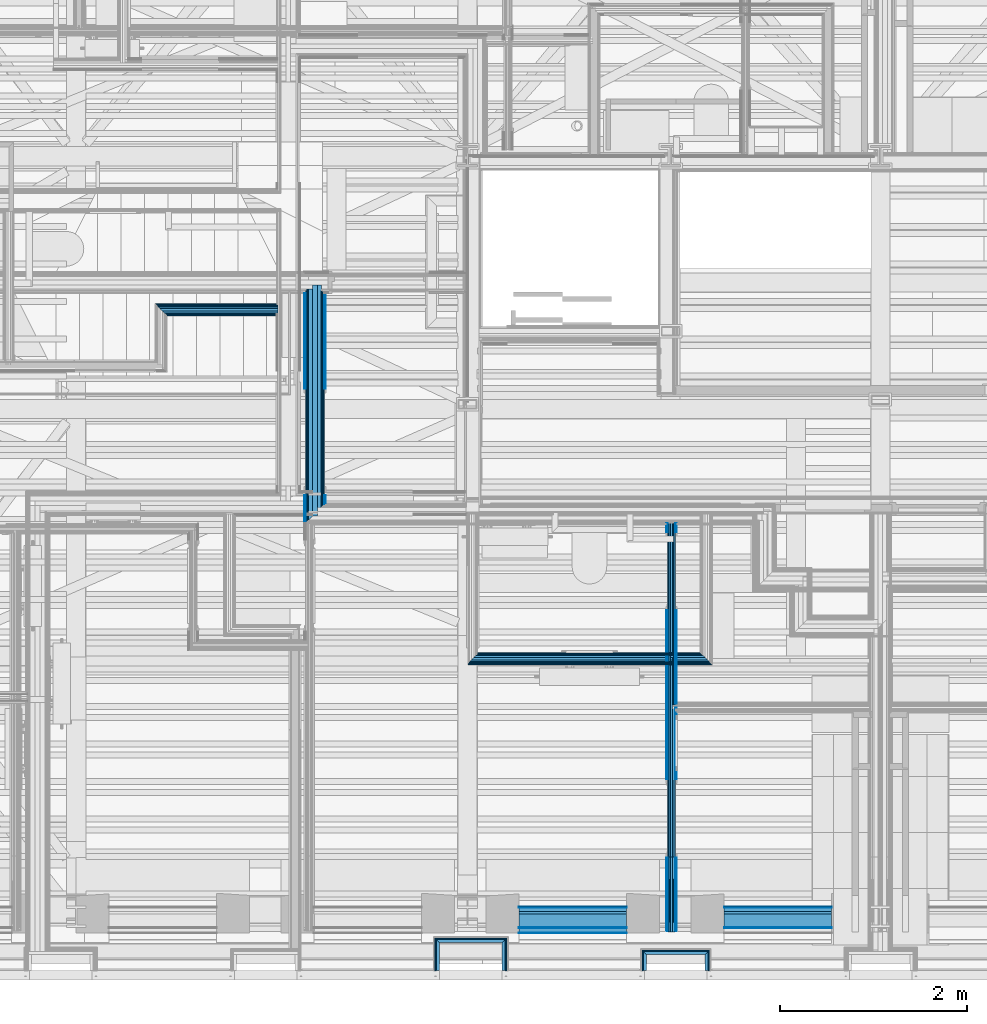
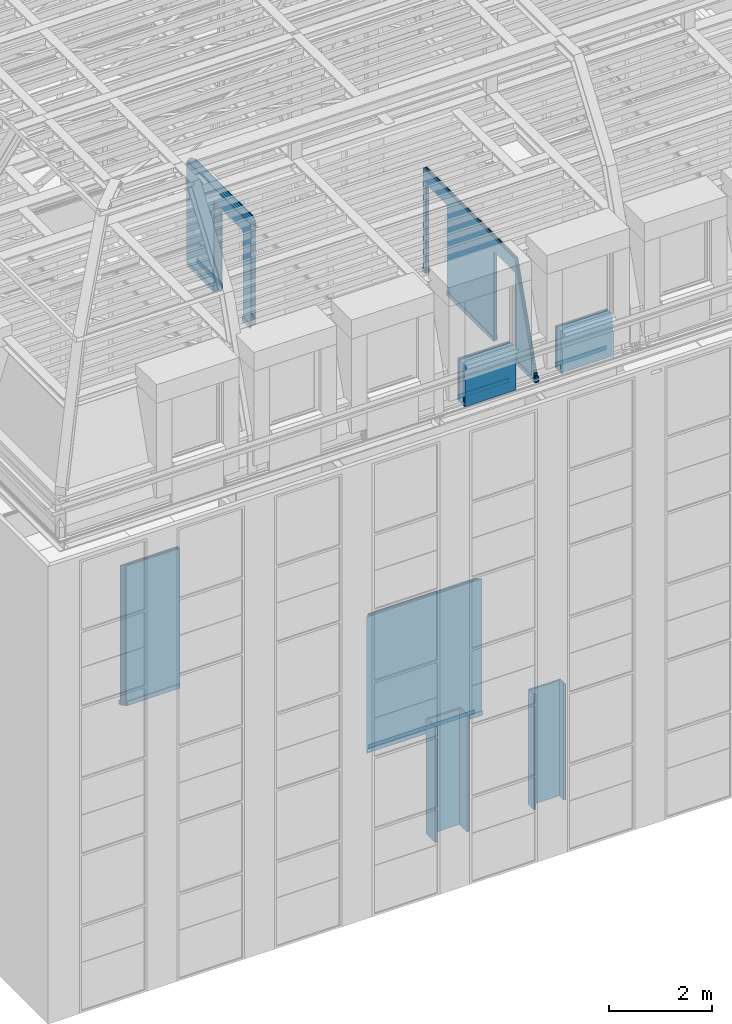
# One storey, part 32 of 183: 58 building element parts, 3 openings, 12 elements without a shape of their own.
"""IFC2X3 building model written with IfcOpenShell, lengths in metres."""

from ifc_helpers import new_model, entity, si_unit, converted_unit, derived_unit, money_unit, direction, frame, frame_2d, origin_with_axes, place, context, subcontext, project, spatial, polyline, rectangle, outline, extrude, clip, halfspace, material, type_object, element, aggregate, save


model = new_model("IFC2X3")

# Units and contexts
model_context = context("Model", 3, precision=1e-05, world=origin_with_axes(), true_north=direction((0.0, 1.0)))
body_context = subcontext(model_context, "Body", "Model", "MODEL_VIEW", scale=1.0)
ifc_project = project(units=[si_unit("LENGTHUNIT", "METRE"), si_unit("AREAUNIT", "SQUARE_METRE"), si_unit("VOLUMEUNIT", "CUBIC_METRE"), si_unit("ABSORBEDDOSEUNIT", "GRAY"), si_unit("AMOUNTOFSUBSTANCEUNIT", "MOLE"), si_unit("DOSEEQUIVALENTUNIT", "SIEVERT"), si_unit("ELECTRICCAPACITANCEUNIT", "FARAD"), si_unit("ELECTRICCHARGEUNIT", "COULOMB"), si_unit("ELECTRICCONDUCTANCEUNIT", "SIEMENS"), si_unit("ELECTRICCURRENTUNIT", "AMPERE"), si_unit("ELECTRICRESISTANCEUNIT", "OHM"), si_unit("ELECTRICVOLTAGEUNIT", "VOLT"), si_unit("ENERGYUNIT", "JOULE"), si_unit("FORCEUNIT", "NEWTON"), si_unit("FREQUENCYUNIT", "HERTZ"), si_unit("ILLUMINANCEUNIT", "LUX"), si_unit("INDUCTANCEUNIT", "HENRY"), si_unit("LUMINOUSFLUXUNIT", "LUMEN"), si_unit("LUMINOUSINTENSITYUNIT", "CANDELA"), si_unit("MAGNETICFLUXDENSITYUNIT", "TESLA"), si_unit("MAGNETICFLUXUNIT", "WEBER"), si_unit("MASSUNIT", "GRAM"), converted_unit("PLANEANGLEUNIT", "degree", entity("IfcReal", 0.0174532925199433), si_unit("PLANEANGLEUNIT", "RADIAN"), dimensions=[0, 0, 0, 0, 0, 0, 0]), si_unit("POWERUNIT", "WATT"), si_unit("PRESSUREUNIT", "PASCAL"), si_unit("RADIOACTIVITYUNIT", "BECQUEREL"), si_unit("SOLIDANGLEUNIT", "STERADIAN"), si_unit("THERMODYNAMICTEMPERATUREUNIT", "KELVIN"), si_unit("TIMEUNIT", "SECOND"), derived_unit("ACCELERATIONUNIT", [(si_unit("LENGTHUNIT", "METRE"), 1), (si_unit("TIMEUNIT", "SECOND"), -2)]), derived_unit("ANGULARVELOCITYUNIT", [(converted_unit("PLANEANGLEUNIT", "degree", entity("IfcReal", 0.0174532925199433), si_unit("PLANEANGLEUNIT", "RADIAN"), dimensions=[0, 0, 0, 0, 0, 0, 0]), 1), (si_unit("TIMEUNIT", "SECOND"), -1)]), derived_unit("CURVATUREUNIT", [(converted_unit("PLANEANGLEUNIT", "degree", entity("IfcReal", 0.0174532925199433), si_unit("PLANEANGLEUNIT", "RADIAN"), dimensions=[0, 0, 0, 0, 0, 0, 0]), 1), (si_unit("LENGTHUNIT", "METRE"), -1)]), derived_unit("DYNAMICVISCOSITYUNIT", [(si_unit("PRESSUREUNIT", "PASCAL"), 1), (si_unit("TIMEUNIT", "SECOND"), 1)]), derived_unit("HEATFLUXDENSITYUNIT", [(si_unit("POWERUNIT", "WATT"), 1), (si_unit("LENGTHUNIT", "METRE"), -2)]), derived_unit("HEATINGVALUEUNIT", [(si_unit("ENERGYUNIT", "JOULE"), 1), (si_unit("MASSUNIT", "GRAM"), -1)]), derived_unit("INTEGERCOUNTRATEUNIT", [(si_unit("TIMEUNIT", "SECOND"), -1)]), derived_unit("IONCONCENTRATIONUNIT", [(si_unit("MASSUNIT", "GRAM"), 1), (si_unit("VOLUMEUNIT", "CUBIC_METRE"), -1)]), derived_unit("ISOTHERMALMOISTURECAPACITYUNIT", [(si_unit("VOLUMEUNIT", "CUBIC_METRE"), 1), (si_unit("MASSUNIT", "GRAM"), -1)]), derived_unit("KINEMATICVISCOSITYUNIT", [(si_unit("AREAUNIT", "SQUARE_METRE"), 1), (si_unit("TIMEUNIT", "SECOND"), -1)]), derived_unit("LINEARFORCEUNIT", [(si_unit("FORCEUNIT", "NEWTON"), 1), (si_unit("LENGTHUNIT", "METRE"), -1)]), derived_unit("LINEARMOMENTUNIT", [(si_unit("FORCEUNIT", "NEWTON"), 1), (si_unit("LENGTHUNIT", "METRE"), -1)]), derived_unit("LINEARSTIFFNESSUNIT", [(si_unit("FORCEUNIT", "NEWTON"), 1), (si_unit("LENGTHUNIT", "METRE"), -1)]), derived_unit("LINEARVELOCITYUNIT", [(si_unit("LENGTHUNIT", "METRE"), 1), (si_unit("TIMEUNIT", "SECOND"), -1)]), derived_unit("LUMINOUSINTENSITYDISTRIBUTIONUNIT", [(si_unit("LUMINOUSINTENSITYUNIT", "CANDELA"), 1), (si_unit("LUMINOUSFLUXUNIT", "LUMEN"), -1)]), derived_unit("MASSDENSITYUNIT", [(si_unit("MASSUNIT", "GRAM"), 1), (si_unit("VOLUMEUNIT", "CUBIC_METRE"), -1)]), derived_unit("MASSFLOWRATEUNIT", [(si_unit("MASSUNIT", "GRAM"), 1), (si_unit("TIMEUNIT", "SECOND"), -1)]), derived_unit("MASSPERLENGTHUNIT", [(si_unit("MASSUNIT", "GRAM"), 1), (si_unit("LENGTHUNIT", "METRE"), -1)]), derived_unit("MODULUSOFELASTICITYUNIT", [(si_unit("FORCEUNIT", "NEWTON"), 1), (si_unit("AREAUNIT", "SQUARE_METRE"), -1)]), derived_unit("MODULUSOFLINEARSUBGRADEREACTIONUNIT", [(si_unit("FORCEUNIT", "NEWTON"), 1), (si_unit("LENGTHUNIT", "METRE"), -2)]), derived_unit("MODULUSOFROTATIONALSUBGRADEREACTIONUNIT", [(si_unit("FORCEUNIT", "NEWTON"), 1), (si_unit("LENGTHUNIT", "METRE"), 1)]), derived_unit("MODULUSOFSUBGRADEREACTIONUNIT", [(si_unit("FORCEUNIT", "NEWTON"), 1), (si_unit("VOLUMEUNIT", "CUBIC_METRE"), -1)]), derived_unit("MOISTUREDIFFUSIVITYUNIT", [(si_unit("VOLUMEUNIT", "CUBIC_METRE"), 1), (si_unit("TIMEUNIT", "SECOND"), -1)]), derived_unit("MOLECULARWEIGHTUNIT", [(si_unit("MASSUNIT", "GRAM"), 1), (si_unit("AMOUNTOFSUBSTANCEUNIT", "MOLE"), -1)]), derived_unit("PLANARFORCEUNIT", [(si_unit("FORCEUNIT", "NEWTON"), 1), (si_unit("LENGTHUNIT", "METRE"), -2)]), derived_unit("ROTATIONALFREQUENCYUNIT", [(si_unit("TIMEUNIT", "SECOND"), -1)]), derived_unit("ROTATIONALMASSUNIT", [(si_unit("MASSUNIT", "GRAM"), 1), (si_unit("LENGTHUNIT", "METRE"), 2)]), derived_unit("ROTATIONALSTIFFNESSUNIT", [(si_unit("FORCEUNIT", "NEWTON"), 1), (si_unit("LENGTHUNIT", "METRE"), 1), (converted_unit("PLANEANGLEUNIT", "degree", entity("IfcReal", 0.0174532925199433), si_unit("PLANEANGLEUNIT", "RADIAN"), dimensions=[0, 0, 0, 0, 0, 0, 0]), -1)]), derived_unit("SECTIONAREAINTEGRALUNIT", [(si_unit("LENGTHUNIT", "METRE"), 5)]), derived_unit("SECTIONMODULUSUNIT", [(si_unit("LENGTHUNIT", "METRE"), 3)]), derived_unit("SHEARMODULUSUNIT", [(si_unit("FORCEUNIT", "NEWTON"), 1), (si_unit("AREAUNIT", "SQUARE_METRE"), -1)]), derived_unit("SOUNDPOWERUNIT", [(si_unit("ENERGYUNIT", "JOULE"), 1), (si_unit("TIMEUNIT", "SECOND"), -1)]), derived_unit("SPECIFICHEATCAPACITYUNIT", [(si_unit("FORCEUNIT", "NEWTON"), 1), (si_unit("MASSUNIT", "GRAM"), -1), (si_unit("THERMODYNAMICTEMPERATUREUNIT", "KELVIN"), -1)]), derived_unit("TEMPERATUREGRADIENTUNIT", [(si_unit("THERMODYNAMICTEMPERATUREUNIT", "KELVIN"), 1), (si_unit("LENGTHUNIT", "METRE"), -1)]), derived_unit("THERMALADMITTANCEUNIT", [(si_unit("POWERUNIT", "WATT"), 1), (si_unit("AREAUNIT", "SQUARE_METRE"), -1), (si_unit("THERMODYNAMICTEMPERATUREUNIT", "KELVIN"), -1)]), derived_unit("THERMALCONDUCTANCEUNIT", [(si_unit("POWERUNIT", "WATT"), 1), (si_unit("LENGTHUNIT", "METRE"), -1), (si_unit("THERMODYNAMICTEMPERATUREUNIT", "KELVIN"), -1)]), derived_unit("THERMALEXPANSIONCOEFFICIENTUNIT", [(si_unit("THERMODYNAMICTEMPERATUREUNIT", "KELVIN"), -1)]), derived_unit("THERMALRESISTANCEUNIT", [(si_unit("AREAUNIT", "SQUARE_METRE"), 1), (si_unit("POWERUNIT", "WATT"), -1)]), derived_unit("THERMALTRANSMITTANCEUNIT", [(si_unit("POWERUNIT", "WATT"), 1), (si_unit("AREAUNIT", "SQUARE_METRE"), -1), (si_unit("THERMODYNAMICTEMPERATUREUNIT", "KELVIN"), -1)]), derived_unit("TORQUEUNIT", [(si_unit("FORCEUNIT", "NEWTON"), 1), (si_unit("LENGTHUNIT", "METRE"), 1)]), derived_unit("VAPORPERMEABILITYUNIT", [(si_unit("MASSUNIT", "GRAM"), 1), (si_unit("TIMEUNIT", "SECOND"), -1)]), derived_unit("VOLUMETRICFLOWRATEUNIT", [(si_unit("VOLUMEUNIT", "CUBIC_METRE"), 1), (si_unit("TIMEUNIT", "SECOND"), -1)]), derived_unit("WARPINGCONSTANTUNIT", [(si_unit("LENGTHUNIT", "METRE"), 6)]), derived_unit("WARPINGMOMENTUNIT", [(si_unit("FORCEUNIT", "NEWTON"), 1), (si_unit("LENGTHUNIT", "METRE"), 2)]), money_unit("GBP")], contexts=[model_context])

# Site, building, storey
site_placement = place(None, origin_with_axes())
site = spatial("IfcSite", under=ifc_project, at=site_placement, Name="Site", CompositionType="ELEMENT")
building_placement = place(site_placement, origin_with_axes())
building = spatial("IfcBuilding", under=site, at=building_placement, Name="Building01", CompositionType="ELEMENT")
storey_placement = place(building_placement, frame((0.0, 0.0, 5.15), z_axis=(0.0, 0.0, 1.0), x_axis=(1.0, 0.0, 0.0)))
storey = spatial("IfcBuildingStorey", under=building, at=storey_placement, Name="1F", CompositionType="ELEMENT", Elevation=5.15)

# Wall, building element parts
wall_type_1 = type_object("IfcWallType", Name="SHE_A-Walls_Type06d_ExternalWallInsulation_48mm", PredefinedType="NOTDEFINED")
wall_1_placement = place(storey_placement, frame((8.79, 0.1, 0.0), z_axis=(0.0, 0.0, 1.0), x_axis=(0.0, 1.0, 0.0)))
wall_1 = element("IfcWall", 1, at=wall_1_placement, inside=storey, type_object=wall_type_1, Name="6D", ObjectType="SHE_A-Walls_Type06d_ExternalWallInsulation_48mm")
ifc_material_1 = material(Name="A_BSUK_Insulation")
placement_1 = place(wall_1_placement, origin_with_axes())
building_element_part_1 = element("IfcBuildingElementPart", 2, at=placement_1, material=ifc_material_1, Name="1", context=body_context, shape_type="SweptSolid", body=[
    extrude(outline(polyline([(0.336, 0.036), (0.0, 0.036), (0.0, 0.0), (0.3, 0.0), (0.336, 0.036)])), origin_with_axes(), (0.0, 0.0, 1.0), 2.74),
])
ifc_material_2 = material(Name="A_BSUK_WallInternal_Finishes_Plasterboard")
building_element_part_2 = element("IfcBuildingElementPart", 3, at=placement_1, material=ifc_material_2, Name="2", context=body_context, shape_type="SweptSolid", body=[
    extrude(outline(polyline([(0.348, 0.048), (0.0, 0.048), (0.0, 0.035), (0.335, 0.035), (0.348, 0.048)])), origin_with_axes(), (0.0, 0.0, 1.0), 2.74),
])
aggregate(wall_1, [building_element_part_1, building_element_part_2])

wall_2_placement = place(storey_placement, frame((8.79, 0.4, 0.0), z_axis=(0.0, 0.0, 1.0), x_axis=(1.0, 0.0, 0.0)))
wall_2 = element("IfcWall", 4, at=wall_2_placement, inside=storey, type_object=wall_type_1, Name="6D", ObjectType="SHE_A-Walls_Type06d_ExternalWallInsulation_48mm")
placement_2 = place(wall_2_placement, origin_with_axes())
building_element_part_3 = element("IfcBuildingElementPart", 5, at=placement_2, material=ifc_material_1, Name="1", context=body_context, shape_type="SweptSolid", body=[
    extrude(outline(polyline([(0.706, 0.036), (-0.036, 0.036), (0.0, 0.0), (0.67, 0.0), (0.706, 0.036)])), origin_with_axes(), (0.0, 0.0, 1.0), 2.74),
])
building_element_part_4 = element("IfcBuildingElementPart", 6, at=placement_2, material=ifc_material_2, Name="2", context=body_context, shape_type="SweptSolid", body=[
    extrude(outline(polyline([(0.718, 0.048), (-0.048, 0.048), (-0.035, 0.035), (0.705, 0.035), (0.718, 0.048)])), origin_with_axes(), (0.0, 0.0, 1.0), 2.74),
])
aggregate(wall_2, [building_element_part_3, building_element_part_4])

wall_3_placement = place(storey_placement, frame((9.46, 0.4, 0.0), z_axis=(0.0, 0.0, 1.0), x_axis=(0.0, -1.0, 0.0)))
wall_3 = element("IfcWall", 7, at=wall_3_placement, inside=storey, type_object=wall_type_1, Name="6D", ObjectType="SHE_A-Walls_Type06d_ExternalWallInsulation_48mm")
placement_3 = place(wall_3_placement, origin_with_axes())
building_element_part_5 = element("IfcBuildingElementPart", 8, at=placement_3, material=ifc_material_1, Name="1", context=body_context, shape_type="SweptSolid", body=[
    extrude(outline(polyline([(-0.036, 0.036), (0.0, 0.0), (0.3, 0.0), (0.3, 0.036), (-0.036, 0.036)])), origin_with_axes(), (0.0, 0.0, 1.0), 2.74),
])
building_element_part_6 = element("IfcBuildingElementPart", 9, at=placement_3, material=ifc_material_2, Name="2", context=body_context, shape_type="SweptSolid", body=[
    extrude(outline(polyline([(-0.048, 0.048), (-0.035, 0.035), (0.3, 0.035), (0.3, 0.048), (-0.048, 0.048)])), origin_with_axes(), (0.0, 0.0, 1.0), 2.74),
])
aggregate(wall_3, [building_element_part_5, building_element_part_6])

wall_4_placement = place(storey_placement, frame((11.003, 0.1, 0.0), z_axis=(0.0, 0.0, 1.0), x_axis=(0.0, 1.0, 0.0)))
wall_4 = element("IfcWall", 10, at=wall_4_placement, inside=storey, type_object=wall_type_1, Name="6D", ObjectType="SHE_A-Walls_Type06d_ExternalWallInsulation_48mm")
placement_4 = place(wall_4_placement, origin_with_axes())
building_element_part_7 = element("IfcBuildingElementPart", 11, at=placement_4, material=ifc_material_1, Name="1", context=body_context, shape_type="SweptSolid", body=[
    extrude(outline(polyline([(0.206, 0.036), (0.0, 0.036), (0.0, 0.0), (0.17, 0.0), (0.206, 0.036)])), origin_with_axes(), (0.0, 0.0, 1.0), 2.74),
])
building_element_part_8 = element("IfcBuildingElementPart", 12, at=placement_4, material=ifc_material_2, Name="2", context=body_context, shape_type="SweptSolid", body=[
    extrude(outline(polyline([(0.218, 0.048), (0.0, 0.048), (0.0, 0.035), (0.205, 0.035), (0.218, 0.048)])), origin_with_axes(), (0.0, 0.0, 1.0), 2.74),
])
aggregate(wall_4, [building_element_part_7, building_element_part_8])

wall_5_placement = place(storey_placement, frame((11.003, 0.27, 0.0), z_axis=(0.0, 0.0, 1.0), x_axis=(1.0, 0.0, 0.0)))
wall_5 = element("IfcWall", 13, at=wall_5_placement, inside=storey, type_object=wall_type_1, Name="6D", ObjectType="SHE_A-Walls_Type06d_ExternalWallInsulation_48mm")
placement_5 = place(wall_5_placement, origin_with_axes())
building_element_part_9 = element("IfcBuildingElementPart", 14, at=placement_5, material=ifc_material_1, Name="1", context=body_context, shape_type="SweptSolid", body=[
    extrude(outline(polyline([(0.66, 0.036), (-0.036, 0.036), (0.0, 0.0), (0.624, 0.0), (0.66, 0.036)])), origin_with_axes(), (0.0, 0.0, 1.0), 2.74),
])
building_element_part_10 = element("IfcBuildingElementPart", 15, at=placement_5, material=ifc_material_2, Name="2", context=body_context, shape_type="SweptSolid", body=[
    extrude(outline(polyline([(0.672, 0.048), (-0.048, 0.048), (-0.035, 0.035), (0.659, 0.035), (0.672, 0.048)])), origin_with_axes(), (0.0, 0.0, 1.0), 2.74),
])
aggregate(wall_5, [building_element_part_9, building_element_part_10])

wall_6_placement = place(storey_placement, frame((11.627, 0.27, 0.0), z_axis=(0.0, 0.0, 1.0), x_axis=(0.0, -1.0, 0.0)))
wall_6 = element("IfcWall", 16, at=wall_6_placement, inside=storey, type_object=wall_type_1, Name="6D", ObjectType="SHE_A-Walls_Type06d_ExternalWallInsulation_48mm")
placement_6 = place(wall_6_placement, origin_with_axes())
building_element_part_11 = element("IfcBuildingElementPart", 17, at=placement_6, material=ifc_material_1, Name="1", context=body_context, shape_type="SweptSolid", body=[
    extrude(outline(polyline([(-0.036, 0.036), (0.0, 0.0), (0.17, 0.0), (0.17, 0.036), (-0.036, 0.036)])), origin_with_axes(), (0.0, 0.0, 1.0), 2.74),
])
building_element_part_12 = element("IfcBuildingElementPart", 18, at=placement_6, material=ifc_material_2, Name="2", context=body_context, shape_type="SweptSolid", body=[
    extrude(outline(polyline([(-0.048, 0.048), (-0.035, 0.035), (0.17, 0.035), (0.17, 0.048), (-0.048, 0.048)])), origin_with_axes(), (0.0, 0.0, 1.0), 2.74),
])
aggregate(wall_6, [building_element_part_11, building_element_part_12])

wall_type_2 = type_object("IfcWallType", Name="SHE_A-Walls_Type05a_Partition_95mm_tall", PredefinedType="NOTDEFINED")
wall_7_placement = place(storey_placement, frame((5.804669, 7.171475, 0.0), z_axis=(0.0, 0.0, 1.0), x_axis=(1.0, 0.0, 0.0)))
wall_7 = element("IfcWall", 19, at=wall_7_placement, inside=storey, type_object=wall_type_2, Name="5A", ObjectType="SHE_A-Walls_Type05a_Partition_95mm_tall")
ifc_material_3 = material(Name="A_BSUK_Walls_Timber")
placement_7 = place(wall_7_placement, origin_with_axes())
building_element_part_13 = element("IfcBuildingElementPart", 20, at=placement_7, material=ifc_material_3, Name="1", context=body_context, shape_type="SweptSolid", body=[
    extrude(outline(polyline([(1.245, -0.06), (0.06, -0.06), (0.075, -0.075), (1.245, -0.075), (1.245, -0.06)])), frame((0.0, 0.0, 0.015), z_axis=(0.0, 0.0, 1.0), x_axis=(1.0, 0.0, 0.0)), (0.0, 0.0, 1.0), 0.1),
])
building_element_part_14 = element("IfcBuildingElementPart", 21, at=placement_7, material=ifc_material_2, Name="2", context=body_context, shape_type="SweptSolid", body=[
    extrude(outline(polyline([(1.26, -0.048), (0.048, -0.048), (0.06, -0.06), (1.26, -0.06), (1.26, -0.048)])), origin_with_axes(), (0.0, 0.0, 1.0), 3.32),
])
ifc_material_4 = material(Name="Air Cavity")
building_element_part_15 = element("IfcBuildingElementPart", 22, at=placement_7, material=ifc_material_4, Name="3", context=body_context, shape_type="SweptSolid", body=[
    extrude(outline(polyline([(1.26, -0.025), (0.025, -0.025), (0.048, -0.048), (1.26, -0.048), (1.26, -0.025)])), origin_with_axes(), (0.0, 0.0, 1.0), 3.32),
])
building_element_part_16 = element("IfcBuildingElementPart", 23, at=placement_7, material=ifc_material_1, Name="4", context=body_context, shape_type="SweptSolid", body=[
    extrude(outline(polyline([(1.26, 0.0), (0.0, 0.0), (0.025, -0.025), (1.26, -0.025), (1.26, 0.0)])), origin_with_axes(), (0.0, 0.0, 1.0), 3.32),
])
building_element_part_17 = element("IfcBuildingElementPart", 24, at=placement_7, material=ifc_material_4, Name="5", context=body_context, shape_type="SweptSolid", body=[
    extrude(outline(polyline([(1.26, 0.023), (-0.023, 0.023), (0.0, 0.0), (1.26, 0.0), (1.26, 0.023)])), origin_with_axes(), (0.0, 0.0, 1.0), 3.32),
])
building_element_part_18 = element("IfcBuildingElementPart", 25, at=placement_7, material=ifc_material_2, Name="6", context=body_context, shape_type="SweptSolid", body=[
    extrude(outline(polyline([(1.26, 0.035), (-0.035, 0.035), (-0.023, 0.023), (1.26, 0.023), (1.26, 0.035)])), origin_with_axes(), (0.0, 0.0, 1.0), 3.32),
])
building_element_part_19 = element("IfcBuildingElementPart", 26, at=placement_7, material=ifc_material_3, Name="7", context=body_context, shape_type="SweptSolid", body=[
    extrude(outline(polyline([(1.245, 0.05), (-0.05, 0.05), (-0.035, 0.035), (1.245, 0.035), (1.245, 0.05)])), frame((0.0, 0.0, 0.015), z_axis=(0.0, 0.0, 1.0), x_axis=(1.0, 0.0, 0.0)), (0.0, 0.0, 1.0), 0.1),
])
aggregate(wall_7, [building_element_part_13, building_element_part_14, building_element_part_15, building_element_part_16, building_element_part_17, building_element_part_18, building_element_part_19])

wall_8_placement = place(storey_placement, frame((9.132536, 3.42, 0.0), z_axis=(0.0, 0.0, 1.0), x_axis=(-1.0, 0.0, 0.0)))
wall_8 = element("IfcWall", 27, at=wall_8_placement, inside=storey, type_object=wall_type_2, Name="5A", ObjectType="SHE_A-Walls_Type05a_Partition_95mm_tall")
placement_8 = place(wall_8_placement, origin_with_axes())
building_element_part_20 = element("IfcBuildingElementPart", 28, at=placement_8, material=ifc_material_3, Name="1", context=body_context, shape_type="SweptSolid", body=[
    extrude(outline(polyline([(-2.445, -0.075), (-0.06, -0.075), (-0.06, -0.06), (-2.46, -0.06), (-2.445, -0.075)])), frame((0.0, 0.0, 0.015), z_axis=(0.0, 0.0, 1.0), x_axis=(1.0, 0.0, 0.0)), (0.0, 0.0, 1.0), 0.1),
])
building_element_part_21 = element("IfcBuildingElementPart", 29, at=placement_8, material=ifc_material_2, Name="2", context=body_context, shape_type="SweptSolid", body=[
    extrude(outline(polyline([(-2.46, -0.06), (-0.06, -0.06), (-0.048, -0.048), (-2.472, -0.048), (-2.46, -0.06)])), origin_with_axes(), (0.0, 0.0, 1.0), 3.24),
])
building_element_part_22 = element("IfcBuildingElementPart", 30, at=placement_8, material=ifc_material_4, Name="3", context=body_context, shape_type="SweptSolid", body=[
    extrude(outline(polyline([(-2.472, -0.048), (-0.048, -0.048), (-0.025, -0.025), (-2.495, -0.025), (-2.472, -0.048)])), origin_with_axes(), (0.0, 0.0, 1.0), 3.24),
])
building_element_part_23 = element("IfcBuildingElementPart", 31, at=placement_8, material=ifc_material_1, Name="4", context=body_context, shape_type="SweptSolid", body=[
    extrude(outline(polyline([(-2.495, -0.025), (-0.025, -0.025), (0.0, 0.0), (-2.52, 0.0), (-2.495, -0.025)])), origin_with_axes(), (0.0, 0.0, 1.0), 3.24),
])
building_element_part_24 = element("IfcBuildingElementPart", 32, at=placement_8, material=ifc_material_4, Name="5", context=body_context, shape_type="SweptSolid", body=[
    extrude(outline(polyline([(-2.52, 0.0), (0.0, 0.0), (0.023, 0.023), (-2.543, 0.023), (-2.52, 0.0)])), origin_with_axes(), (0.0, 0.0, 1.0), 3.24),
])
building_element_part_25 = element("IfcBuildingElementPart", 33, at=placement_8, material=ifc_material_2, Name="6", context=body_context, shape_type="SweptSolid", body=[
    extrude(outline(polyline([(-2.543, 0.023), (0.023, 0.023), (0.035, 0.035), (-2.555, 0.035), (-2.543, 0.023)])), origin_with_axes(), (0.0, 0.0, 1.0), 3.24),
])
building_element_part_26 = element("IfcBuildingElementPart", 34, at=placement_8, material=ifc_material_3, Name="7", context=body_context, shape_type="SweptSolid", body=[
    extrude(outline(polyline([(-2.555, 0.035), (0.035, 0.035), (0.035, 0.05), (-2.57, 0.05), (-2.555, 0.035)])), frame((0.0, 0.0, 0.015), z_axis=(0.0, 0.0, 1.0), x_axis=(1.0, 0.0, 0.0)), (0.0, 0.0, 1.0), 0.1),
])
aggregate(wall_8, [building_element_part_20, building_element_part_21, building_element_part_22, building_element_part_23, building_element_part_24, building_element_part_25, building_element_part_26])

# Wall, opening, building element parts
wall_type_3 = type_object("IfcWallType", Name="SHE_A-Walls_Type01d_Partywall_200mm_twin", PredefinedType="NOTDEFINED")
wall_9_placement = place(storey_placement, frame((7.435, 7.425061, 9.78), z_axis=(0.0, 0.0, 1.0), x_axis=(0.0, -1.0, 0.0)))
wall_9 = element("IfcWall", 35, at=wall_9_placement, inside=storey, type_object=wall_type_3, Name="1D", ObjectType="SHE_A-Walls_Type01d_Partywall_200mm_twin")
opening_1_placement = place(wall_9_placement, frame((1.111061, -0.09, 0.0), z_axis=(0.0, 0.0, 1.0), x_axis=(1.0, 0.0, 0.0)))
element("IfcOpeningElement", 36, at=opening_1_placement, cuts=wall_9, Name="Opening", ObjectType="Opening", context=body_context, shape_type="SweptSolid", body=[
    extrude(rectangle(XDim=1.134, YDim=2.142, at=frame_2d((-0.567, 1.071), x_axis=(-1.0, 0.0))), frame((0.0, 0.0, 0.0), z_axis=(0.0, 1.0, 0.0), x_axis=(-1.0, 0.0, 0.0)), (0.0, 0.0, 1.0), 0.23),
])
placement_9 = place(wall_9_placement, origin_with_axes())
building_element_part_27 = element("IfcBuildingElementPart", 37, at=placement_9, material=ifc_material_3, Name="1", context=body_context, shape_type="SweptSolid", body=[
    extrude(outline(polyline([(2.545061, -0.075), (0.09, -0.075), (0.09, -0.09), (2.560061, -0.09), (2.545061, -0.075)])), frame((0.0, 0.0, 0.015), z_axis=(0.0, 0.0, 1.0), x_axis=(1.0, 0.0, 0.0)), (0.0, 0.0, 1.0), 0.1),
])
building_element_part_28 = element("IfcBuildingElementPart", 38, at=placement_9, material=ifc_material_2, Name="2", context=body_context, shape_type="SweptSolid", body=[
    extrude(outline(polyline([(2.530061, -0.06), (0.060121, -0.06), (0.060121, -0.075), (2.545061, -0.075), (2.530061, -0.06)])), origin_with_axes(), (0.0, 0.0, 1.0), 2.468),
])
building_element_part_29 = element("IfcBuildingElementPart", 39, at=placement_9, material=ifc_material_2, Name="3", context=body_context, shape_type="SweptSolid", body=[
    extrude(outline(polyline([(2.515061, -0.045), (0.045121, -0.045), (0.045121, -0.06), (2.530061, -0.06), (2.515061, -0.045)])), origin_with_axes(), (0.0, 0.0, 1.0), 2.468),
])
building_element_part_30 = element("IfcBuildingElementPart", 40, at=placement_9, material=ifc_material_4, Name="4", context=body_context, shape_type="SweptSolid", body=[
    extrude(outline(polyline([(2.470061, 0.0), (0.045121, 0.0), (0.045121, -0.045), (2.515061, -0.045), (2.470061, 0.0)])), origin_with_axes(), (0.0, 0.0, 1.0), 2.468),
])
building_element_part_31 = element("IfcBuildingElementPart", 41, at=placement_9, material=ifc_material_1, Name="5", context=body_context, shape_type="SweptSolid", body=[
    extrude(rectangle(XDim=2.470061, YDim=0.05, at=frame_2d((1.23503, 0.025), x_axis=(-1.0, 0.0))), origin_with_axes(), (0.0, 0.0, 1.0), 2.468),
])
building_element_part_32 = element("IfcBuildingElementPart", 42, at=placement_9, material=ifc_material_4, Name="6", context=body_context, shape_type="SweptSolid", body=[
    extrude(rectangle(XDim=2.470061, YDim=0.045, at=frame_2d((1.23503, 0.0725), x_axis=(-1.0, 0.0))), origin_with_axes(), (0.0, 0.0, 1.0), 2.468),
])
building_element_part_33 = element("IfcBuildingElementPart", 43, at=placement_9, material=ifc_material_2, Name="7", context=body_context, shape_type="SweptSolid", body=[
    extrude(outline(polyline([(2.360061, 0.11), (0.060121, 0.11), (0.060121, 0.095), (2.375061, 0.095), (2.360061, 0.11)])), origin_with_axes(), (0.0, 0.0, 1.0), 2.468),
])
building_element_part_34 = element("IfcBuildingElementPart", 44, at=placement_9, material=ifc_material_2, Name="8", context=body_context, shape_type="SweptSolid", body=[
    extrude(outline(polyline([(2.345061, 0.125), (0.075121, 0.125), (0.075121, 0.11), (2.360061, 0.11), (2.345061, 0.125)])), origin_with_axes(), (0.0, 0.0, 1.0), 2.468),
])
building_element_part_35 = element("IfcBuildingElementPart", 45, at=placement_9, material=ifc_material_3, Name="9", context=body_context, shape_type="SweptSolid", body=[
    extrude(outline(polyline([(2.330061, 0.14), (0.090121, 0.14), (0.090121, 0.125), (2.345061, 0.125), (2.330061, 0.14)])), frame((0.0, 0.0, 0.015), z_axis=(0.0, 0.0, 1.0), x_axis=(1.0, 0.0, 0.0)), (0.0, 0.0, 1.0), 0.1),
])
aggregate(wall_9, [building_element_part_27, building_element_part_28, building_element_part_29, building_element_part_30, building_element_part_31, building_element_part_32, building_element_part_33, building_element_part_34, building_element_part_35])

# Wall, building element parts
wall_type_4 = type_object("IfcWallType", Name="SHE_A-Walls_Type06e_ExternalWallPenthouse_280mm", PredefinedType="NOTDEFINED")
wall_10_placement = place(storey_placement, frame((12.979976, 0.565, 9.78), z_axis=(0.0, 0.0, 1.0), x_axis=(-1.0, 0.0, 0.0)))
wall_10 = element("IfcWall", 46, at=wall_10_placement, inside=storey, type_object=wall_type_4, Name="6E", ObjectType="SHE_A-Walls_Type06e_ExternalWallPenthouse_280mm")
placement_10 = place(wall_10_placement, origin_with_axes())
building_element_part_36 = element("IfcBuildingElementPart", 47, at=placement_10, material=ifc_material_3, Name="1", context=body_context, shape_type="SweptSolid", body=[
    extrude(rectangle(XDim=1.149951, YDim=0.015, at=frame_2d((0.574976, -0.2225), x_axis=(-1.0, 0.0))), frame((0.0, 0.0, 0.015), z_axis=(0.0, 0.0, 1.0), x_axis=(1.0, 0.0, 0.0)), (0.0, 0.0, 1.0), 0.1),
])
building_element_part_37 = element("IfcBuildingElementPart", 48, at=placement_10, material=ifc_material_2, Name="2", context=body_context, shape_type="SweptSolid", body=[
    extrude(rectangle(XDim=1.149951, YDim=0.01, at=frame_2d((0.574976, -0.21), x_axis=(-1.0, 0.0))), origin_with_axes(), (0.0, 0.0, 1.0), 1.0),
])
building_element_part_38 = element("IfcBuildingElementPart", 49, at=placement_10, material=ifc_material_1, Name="3", context=body_context, shape_type="SweptSolid", body=[
    extrude(rectangle(XDim=1.149951, YDim=0.04, at=frame_2d((0.574976, -0.185), x_axis=(-1.0, 0.0))), origin_with_axes(), (0.0, 0.0, 1.0), 1.0),
])
building_element_part_39 = element("IfcBuildingElementPart", 50, at=placement_10, material=ifc_material_4, Name="4", context=body_context, shape_type="SweptSolid", body=[
    extrude(rectangle(XDim=1.149951, YDim=0.025, at=frame_2d((0.574976, -0.1525), x_axis=(-1.0, 0.0))), origin_with_axes(), (0.0, 0.0, 1.0), 1.0),
])
building_element_part_40 = element("IfcBuildingElementPart", 51, at=placement_10, material=ifc_material_1, Name="5", context=body_context, shape_type="SweptSolid", body=[
    extrude(rectangle(XDim=1.149951, YDim=0.14, at=frame_2d((0.574976, -0.07), x_axis=(-1.0, 0.0))), origin_with_axes(), (0.0, 0.0, 1.0), 1.0),
])
building_element_part_41 = element("IfcBuildingElementPart", 52, at=placement_10, material=ifc_material_3, Name="6", context=body_context, shape_type="SweptSolid", body=[
    extrude(rectangle(XDim=1.149951, YDim=0.01, at=frame_2d((0.574976, 0.005), x_axis=(-1.0, 0.0))), origin_with_axes(), (0.0, 0.0, 1.0), 1.0),
])
aggregate(wall_10, [building_element_part_36, building_element_part_37, building_element_part_38, building_element_part_39, building_element_part_40, building_element_part_41])

wall_11_placement = place(storey_placement, frame((10.789976, 0.565, 9.78), z_axis=(0.0, 0.0, 1.0), x_axis=(-1.0, 0.0, 0.0)))
wall_11 = element("IfcWall", 53, at=wall_11_placement, inside=storey, type_object=wall_type_4, Name="6E", ObjectType="SHE_A-Walls_Type06e_ExternalWallPenthouse_280mm")
placement_11 = place(wall_11_placement, origin_with_axes())
building_element_part_42 = element("IfcBuildingElementPart", 54, at=placement_11, material=ifc_material_3, Name="1", context=body_context, shape_type="SweptSolid", body=[
    extrude(rectangle(XDim=1.149951, YDim=0.015, at=frame_2d((0.574976, -0.2225), x_axis=(-1.0, 0.0))), frame((0.0, 0.0, 0.015), z_axis=(0.0, 0.0, 1.0), x_axis=(1.0, 0.0, 0.0)), (0.0, 0.0, 1.0), 0.1),
])
building_element_part_43 = element("IfcBuildingElementPart", 55, at=placement_11, material=ifc_material_2, Name="2", context=body_context, shape_type="SweptSolid", body=[
    extrude(rectangle(XDim=1.149951, YDim=0.01, at=frame_2d((0.574976, -0.21), x_axis=(-1.0, 0.0))), origin_with_axes(), (0.0, 0.0, 1.0), 1.0),
])
building_element_part_44 = element("IfcBuildingElementPart", 56, at=placement_11, material=ifc_material_1, Name="3", context=body_context, shape_type="SweptSolid", body=[
    extrude(rectangle(XDim=1.149951, YDim=0.04, at=frame_2d((0.574976, -0.185), x_axis=(-1.0, 0.0))), origin_with_axes(), (0.0, 0.0, 1.0), 1.0),
])
building_element_part_45 = element("IfcBuildingElementPart", 57, at=placement_11, material=ifc_material_4, Name="4", context=body_context, shape_type="SweptSolid", body=[
    extrude(rectangle(XDim=1.149951, YDim=0.025, at=frame_2d((0.574976, -0.1525), x_axis=(-1.0, 0.0))), origin_with_axes(), (0.0, 0.0, 1.0), 1.0),
])
building_element_part_46 = element("IfcBuildingElementPart", 58, at=placement_11, material=ifc_material_1, Name="5", context=body_context, shape_type="SweptSolid", body=[
    extrude(rectangle(XDim=1.149951, YDim=0.14, at=frame_2d((0.574976, -0.07), x_axis=(-1.0, 0.0))), origin_with_axes(), (0.0, 0.0, 1.0), 1.0),
])
building_element_part_47 = element("IfcBuildingElementPart", 59, at=placement_11, material=ifc_material_3, Name="6", context=body_context, shape_type="SweptSolid", body=[
    extrude(rectangle(XDim=1.14995, YDim=0.01, at=frame_2d((0.574976, 0.005), x_axis=(-1.0, 0.0))), origin_with_axes(), (0.0, 0.0, 1.0), 1.0),
])
building_element_part_48 = element("IfcBuildingElementPart", 60, at=placement_11, material=ifc_material_4, Name="7", context=body_context, shape_type="SweptSolid", body=[
    extrude(rectangle(XDim=1.14995, YDim=0.05, at=frame_2d((0.574976, 0.035), x_axis=(-1.0, 0.0))), origin_with_axes(), (0.0, 0.0, 1.0), 1.0),
])
ifc_material_5 = material(Name="A_BSUK_WallInternal_Finishes_Metal")
building_element_part_49 = element("IfcBuildingElementPart", 61, at=placement_11, material=ifc_material_5, Name="8", context=body_context, shape_type="SweptSolid", body=[
    extrude(rectangle(XDim=1.14995, YDim=0.005, at=frame_2d((0.574976, 0.0625), x_axis=(-1.0, 0.0))), origin_with_axes(), (0.0, 0.0, 1.0), 1.0),
])
aggregate(wall_11, [building_element_part_42, building_element_part_43, building_element_part_44, building_element_part_45, building_element_part_46, building_element_part_47, building_element_part_48, building_element_part_49])

# Wall, openings, building element parts
wall_type_5 = type_object("IfcWallType", Name="SHE_A-Walls_Type05b_Partition_80mm", PredefinedType="NOTDEFINED")
wall_12_placement = place(storey_placement, frame((11.257, 4.88, 9.78), z_axis=(0.0, 0.0, 1.0), x_axis=(0.0, -1.0, 0.0)))
wall_12 = element("IfcWall", 62, at=wall_12_placement, inside=storey, type_object=wall_type_5, Name="5B", ObjectType="SHE_A-Walls_Type05b_Partition_80mm")
opening_2_placement = place(wall_12_placement, frame((0.098239, -0.042, 0.0), z_axis=(0.0, 0.0, 1.0), x_axis=(1.0, 0.0, 0.0)))
element("IfcOpeningElement", 63, at=opening_2_placement, cuts=wall_12, Name="Opening", ObjectType="Opening", context=body_context, shape_type="SweptSolid", body=[
    extrude(rectangle(XDim=0.834, YDim=2.142, at=frame_2d((-0.417, 1.071), x_axis=(-1.0, 0.0))), frame((0.0, 0.0, 0.0), z_axis=(0.0, 1.0, 0.0), x_axis=(-1.0, 0.0, 0.0)), (0.0, 0.0, 1.0), 0.11),
])
opening_3_placement = place(wall_12_placement, frame((2.738061, -0.042, 0.0), z_axis=(0.0, 0.0, 1.0), x_axis=(1.0, 0.0, 0.0)))
element("IfcOpeningElement", 64, at=opening_3_placement, cuts=wall_12, Name="Opening", ObjectType="Opening", context=body_context, shape_type="SweptSolid", body=[
    extrude(rectangle(XDim=0.834, YDim=2.142, at=frame_2d((-0.417, 1.071), x_axis=(-1.0, 0.0))), frame((0.0, 0.0, 0.0), z_axis=(0.0, 1.0, 0.0), x_axis=(-1.0, 0.0, 0.0)), (0.0, 0.0, 1.0), 0.11),
])
placement_12 = place(wall_12_placement, origin_with_axes())
building_element_part_50 = element("IfcBuildingElementPart", 65, at=placement_12, material=ifc_material_3, Name="1", context=body_context, shape_type="Clipping", body=[
    clip(extrude(rectangle(XDim=4.361784, YDim=0.015, at=frame_2d((2.180892, -0.0345), x_axis=(-1.0, 0.0))), frame((0.0, 0.0, 0.015), z_axis=(0.0, 0.0, 1.0), x_axis=(1.0, 0.0, 0.0)), (0.0, 0.0, 1.0), 0.1), halfspace(frame((3.949679, 0.0, 1.283329), z_axis=(-0.95105652, 0.0, -0.30901699), x_axis=(0.0, -1.0, 0.0)), True)),
])
building_element_part_51 = element("IfcBuildingElementPart", 66, at=placement_12, material=ifc_material_2, Name="2", context=body_context, shape_type="Clipping", body=[
    clip(extrude(rectangle(XDim=4.366658, YDim=0.015, at=frame_2d((2.183329, -0.0195), x_axis=(-1.0, 0.0))), origin_with_axes(), (0.0, 0.0, 1.0), 2.468), halfspace(frame((3.949679, 0.0, 1.283329), z_axis=(-0.95105652, 0.0, -0.30901699), x_axis=(0.0, -1.0, 0.0)), True)),
])
building_element_part_52 = element("IfcBuildingElementPart", 67, at=placement_12, material=ifc_material_4, Name="3", context=body_context, shape_type="Clipping", body=[
    clip(extrude(rectangle(XDim=4.366658, YDim=0.012, at=frame_2d((2.183329, -0.006), x_axis=(-1.0, 0.0))), origin_with_axes(), (0.0, 0.0, 1.0), 2.468), halfspace(frame((3.949679, 0.0, 1.283329), z_axis=(-0.95105652, 0.0, -0.30901699), x_axis=(0.0, -1.0, 0.0)), True)),
])
building_element_part_53 = element("IfcBuildingElementPart", 68, at=placement_12, material=ifc_material_1, Name="4", context=body_context, shape_type="Clipping", body=[
    clip(extrude(rectangle(XDim=4.366658, YDim=0.025, at=frame_2d((2.183329, 0.0125), x_axis=(-1.0, 0.0))), origin_with_axes(), (0.0, 0.0, 1.0), 2.468), halfspace(frame((3.949679, 0.0, 1.283329), z_axis=(-0.95105652, 0.0, -0.30901699), x_axis=(0.0, -1.0, 0.0)), True)),
])
building_element_part_54 = element("IfcBuildingElementPart", 69, at=placement_12, material=ifc_material_4, Name="5", context=body_context, shape_type="Clipping", body=[
    clip(extrude(rectangle(XDim=4.366658, YDim=0.013, at=frame_2d((2.183329, 0.0315), x_axis=(-1.0, 0.0))), origin_with_axes(), (0.0, 0.0, 1.0), 2.468), halfspace(frame((3.949679, 0.0, 1.283329), z_axis=(-0.95105652, 0.0, -0.30901699), x_axis=(0.0, -1.0, 0.0)), True)),
])
building_element_part_55 = element("IfcBuildingElementPart", 70, at=placement_12, material=ifc_material_2, Name="6", context=body_context, shape_type="SweptSolid", body=[
    extrude(rectangle(XDim=1.945239, YDim=0.015, at=frame_2d((0.972619, 0.0455), x_axis=(-1.0, 0.0))), origin_with_axes(), (0.0, 0.0, 1.0), 2.468),
])
building_element_part_56 = element("IfcBuildingElementPart", 71, at=placement_12, material=ifc_material_2, Name="7", context=body_context, shape_type="Clipping", body=[
    clip(extrude(rectangle(XDim=4.366658, YDim=0.015, at=frame_2d((2.183329, 0.0455), x_axis=(-1.0, 0.0))), origin_with_axes(), (0.0, 0.0, 1.0), 2.468), halfspace(frame((3.949679, 0.0, 1.283329), z_axis=(-0.95105652, 0.0, -0.30901699), x_axis=(0.0, -1.0, 0.0)), True)),
])
building_element_part_57 = element("IfcBuildingElementPart", 72, at=placement_12, material=ifc_material_3, Name="8", context=body_context, shape_type="SweptSolid", body=[
    extrude(rectangle(XDim=1.930239, YDim=0.015, at=frame_2d((0.965119, 0.0605), x_axis=(-1.0, 0.0))), frame((0.0, 0.0, 0.015), z_axis=(0.0, 0.0, 1.0), x_axis=(1.0, 0.0, 0.0)), (0.0, 0.0, 1.0), 0.1),
])
building_element_part_58 = element("IfcBuildingElementPart", 73, at=placement_12, material=ifc_material_3, Name="9", context=body_context, shape_type="Clipping", body=[
    clip(extrude(rectangle(XDim=4.361784, YDim=0.015, at=frame_2d((2.180892, 0.0605), x_axis=(-1.0, 0.0))), frame((0.0, 0.0, 0.015), z_axis=(0.0, 0.0, 1.0), x_axis=(1.0, 0.0, 0.0)), (0.0, 0.0, 1.0), 0.1), halfspace(frame((3.949679, 0.0, 1.283329), z_axis=(-0.95105652, 0.0, -0.30901699), x_axis=(0.0, -1.0, 0.0)), True)),
])
aggregate(wall_12, [building_element_part_50, building_element_part_51, building_element_part_52, building_element_part_53, building_element_part_54, building_element_part_55, building_element_part_56, building_element_part_57, building_element_part_58])

save(model, "model.ifc")
